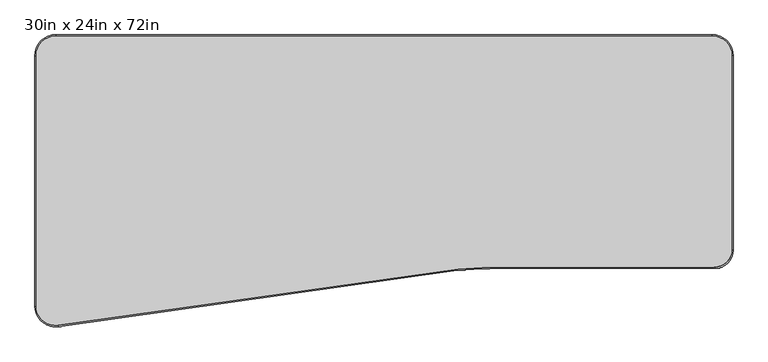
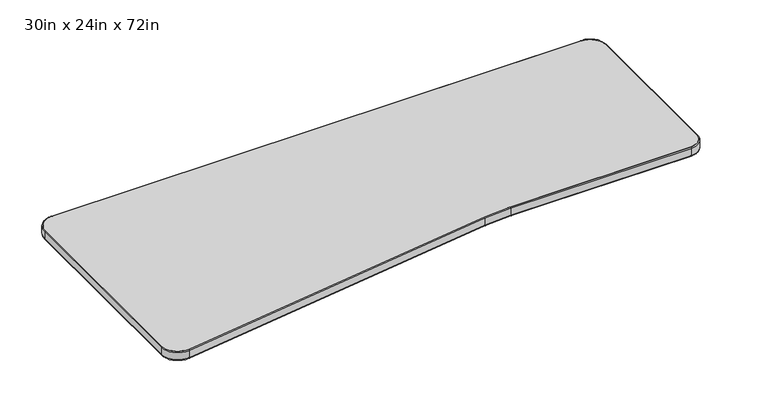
"""IFC4 building model written with IfcOpenShell, lengths in millimetres: furniture geometry, Steelcase - Answer Solution - Universal Table - Transition - Left : 30in x 24in x 72in."""

import ifcopenshell
import ifcopenshell.guid

model = None  # the IFC model being written
_history = None  # IfcOwnerHistory: only IFC2X3 demands one
_inside = {}  # id of a spatial element -> (the spatial element, [elements in it])
_under = {}  # id of a project, library or spatial element -> (it, [spatial elements below it])
_declared = {}  # id of a project -> (the project, [libraries it declares])
_typed = {}  # id of a type object -> (the type object, [elements of that type])
_made_of = {}  # id of a material, layer set ... -> (it, [elements and type objects made of it])


def new_model(schema):
    """Start an empty IFC model of exactly this schema.

    Asked for "IFC4X3", IfcOpenShell would pick the latest addendum, in which some entities
    have other attributes; the version numbers below select the first issue.
    IFC2X3 requires an IfcOwnerHistory on every rooted entity: one is made here for all.
    """
    global model, _history
    if schema == "IFC4X3":
        model = ifcopenshell.file(schema_version=(4, 3, 0, 0))
    else:
        model = ifcopenshell.file(schema=schema)
    _inside.clear()
    _under.clear()
    _declared.clear()
    _typed.clear()
    _made_of.clear()
    _history = None
    if model.schema == "IFC2X3":
        org = make("IfcOrganization", Name="unknown")
        user = make(
            "IfcPersonAndOrganization",
            ThePerson=make("IfcPerson", FamilyName="unknown"),
            TheOrganization=org,
        )
        app = make(
            "IfcApplication",
            ApplicationDeveloper=org,
            Version="unknown",
            ApplicationFullName="unknown",
            ApplicationIdentifier="unknown",
        )
        _history = make(
            "IfcOwnerHistory",
            OwningUser=user,
            OwningApplication=app,
            ChangeAction="ADDED",
            CreationDate=0,
        )
    return model


def make(cls, **values):
    """One entity of the class cls with the attributes given. An attribute that is None is left unset."""
    return model.create_entity(
        cls, **{name: value for name, value in values.items() if value is not None}
    )


def rooted(cls, **values):
    """An entity with a GlobalId (a new one), such as an element, a storey or a relation."""
    return make(cls, GlobalId=ifcopenshell.guid.new(), OwnerHistory=_history, **values)


def si_unit(unit_type, name, prefix=None):
    """IfcSIUnit, for example si_unit("LENGTHUNIT", "METRE", prefix="MILLI")."""
    return make("IfcSIUnit", UnitType=unit_type, Prefix=prefix, Name=name)


def assignment(units):
    """IfcUnitAssignment: the units of a project."""
    return None if units is None else make("IfcUnitAssignment", Units=units)


def point(xyz):
    """IfcCartesianPoint."""
    return None if xyz is None else make("IfcCartesianPoint", Coordinates=xyz)


def direction(xyz):
    """IfcDirection."""
    return None if xyz is None else make("IfcDirection", DirectionRatios=xyz)


def frame(location, z_axis=None, x_axis=None):
    """IfcAxis2Placement3D, a coordinate frame: its origin and axes. An axis left out is left unset."""
    return make(
        "IfcAxis2Placement3D",
        Location=point(location),
        Axis=direction(z_axis),
        RefDirection=direction(x_axis),
    )


def frame_2d(location, x_axis=None):
    """IfcAxis2Placement2D, a coordinate frame in the plane: its origin and x axis."""
    return make(
        "IfcAxis2Placement2D", Location=point(location), RefDirection=direction(x_axis)
    )


def origin():
    """The frame at (0, 0, 0) with its axes left unset."""
    return frame((0.0, 0.0, 0.0))


def place(relative_to, where):
    """IfcLocalPlacement: puts the frame where relative to a parent placement (None: the world)."""
    return make(
        "IfcLocalPlacement", PlacementRelTo=relative_to, RelativePlacement=where
    )


def context(
    kind, dimensions, precision=None, world=None, true_north=None, identifier=None
):
    """IfcGeometricRepresentationContext, for example the 3D "Model" context."""
    return make(
        "IfcGeometricRepresentationContext",
        ContextIdentifier=identifier,
        ContextType=kind,
        CoordinateSpaceDimension=dimensions,
        Precision=precision,
        WorldCoordinateSystem=world,
        TrueNorth=true_north,
    )


def project(units=None, contexts=None):
    """IfcProject with its units and contexts."""
    return rooted(
        "IfcProject",
        Name="project",
        RepresentationContexts=contexts,
        UnitsInContext=assignment(units),
    )


def spatial(cls, under=None, at=None, **own):
    """A site, building, storey or space (cls), placed at a placement, below another one or the project."""
    s = rooted(cls, ObjectPlacement=at, **own)
    if under is not None:
        _under.setdefault(under.id(), (under, []))[1].append(s)
    return s


def polyline(points):
    """IfcPolyline through the points."""
    return make("IfcPolyline", Points=[point(p) for p in points])


def circle_curve(where, radius):
    """IfcCircle in the frame where."""
    return make("IfcCircle", Position=where, Radius=radius)


def ellipse_curve(where, semi_axis1, semi_axis2):
    """IfcEllipse in the frame where."""
    return make(
        "IfcEllipse", Position=where, SemiAxis1=semi_axis1, SemiAxis2=semi_axis2
    )


def trimmed(basis, trim1, trim2, sense, master):
    """IfcTrimmedCurve: the piece of a basis curve between two trims."""
    return make(
        "IfcTrimmedCurve",
        BasisCurve=basis,
        Trim1=trim1,
        Trim2=trim2,
        SenseAgreement=sense,
        MasterRepresentation=master,
    )


def segment(curve, same_sense, transition):
    """IfcCompositeCurveSegment."""
    return make(
        "IfcCompositeCurveSegment",
        Transition=transition,
        SameSense=same_sense,
        ParentCurve=curve,
    )


def composite_curve(segments, self_intersect=None):
    """IfcCompositeCurve: segments joined end to end."""
    return make("IfcCompositeCurve", Segments=segments, SelfIntersect=self_intersect)


def outline(outer, holes=None, kind="AREA"):
    """IfcArbitraryClosedProfileDef: a profile drawn as a closed curve; with holes, ...WithVoids."""
    if holes is None:
        return make("IfcArbitraryClosedProfileDef", ProfileType=kind, OuterCurve=outer)
    return make(
        "IfcArbitraryProfileDefWithVoids",
        ProfileType=kind,
        OuterCurve=outer,
        InnerCurves=holes,
    )


def extrude(swept, where, along, depth):
    """IfcExtrudedAreaSolid: the profile swept, set in the frame where, extruded along a direction by depth."""
    return make(
        "IfcExtrudedAreaSolid",
        SweptArea=swept,
        Position=where,
        ExtrudedDirection=direction(along),
        Depth=depth,
    )


def shape(context_of_items, identifier, shape_type, items):
    """IfcShapeRepresentation: the items that make up one representation, for example the "Body"."""
    return make(
        "IfcShapeRepresentation",
        ContextOfItems=context_of_items,
        RepresentationIdentifier=identifier,
        RepresentationType=shape_type,
        Items=items,
    )


def source(mapping_origin, context_of_items, identifier, shape_type, items):
    """IfcRepresentationMap: a shape defined once, which mapped items show again and again."""
    return make(
        "IfcRepresentationMap",
        MappingOrigin=mapping_origin,
        MappedRepresentation=shape(context_of_items, identifier, shape_type, items),
    )


def transform(
    local_origin,
    x_axis=None,
    y_axis=None,
    z_axis=None,
    scale=None,
    scale2=None,
    scale3=None,
    uniform=True,
):
    """IfcCartesianTransformationOperator3D, or its non-uniform kind. x_axis, y_axis, z_axis: its Axis1, 2, 3."""
    if uniform:
        return make(
            "IfcCartesianTransformationOperator3D",
            Axis1=direction(x_axis),
            Axis2=direction(y_axis),
            LocalOrigin=point(local_origin),
            Scale=scale,
            Axis3=direction(z_axis),
        )
    return make(
        "IfcCartesianTransformationOperator3DnonUniform",
        Axis1=direction(x_axis),
        Axis2=direction(y_axis),
        LocalOrigin=point(local_origin),
        Scale=scale,
        Axis3=direction(z_axis),
        Scale2=scale2,
        Scale3=scale3,
    )


def mapped(mapping_source, mapping_target):
    """IfcMappedItem: shows the shape of a source again, moved by a transform."""
    return make(
        "IfcMappedItem", MappingSource=mapping_source, MappingTarget=mapping_target
    )


def made_of(thing, what):
    """Note that an element or type object is made of a material, layer set ...; save() writes the relation."""
    if what is not None:
        _made_of.setdefault(what.id(), (what, []))[1].append(thing)
    return thing


def element(
    cls,
    number,
    at=None,
    inside=None,
    cuts=None,
    type_object=None,
    material=None,
    context=None,
    identifier="Body",
    shape_type=None,
    held_by="IfcProductDefinitionShape",
    body=None,
    shapes=None,
    **own,
):
    """One element of the class cls, such as IfcWall. Its Tag is "e" and its number.

    at: its placement. inside: the storey or other place that contains it. cuts: it is an
    opening in that element (IfcRelVoidsElement). A single representation is given by context,
    identifier, shape_type and body (its items); several are given by shapes. held_by: the class
    of the entity that holds the representations. save() writes the other relations.
    """
    e = rooted(cls, Tag="e%d" % number, ObjectPlacement=at, **own)
    if body is not None:
        shapes = [shape(context, identifier, shape_type, body)]
    if shapes is not None:
        e.Representation = make(held_by, Representations=shapes)
    if inside is not None:
        _inside.setdefault(inside.id(), (inside, []))[1].append(e)
    if cuts is not None:
        rooted(
            "IfcRelVoidsElement", RelatingBuildingElement=cuts, RelatedOpeningElement=e
        )
    if type_object is not None:
        _typed.setdefault(type_object.id(), (type_object, []))[1].append(e)
    return made_of(e, material)


def aggregate(whole, parts):
    """IfcRelAggregates: a whole, such as a stair, and the parts it consists of."""
    return rooted("IfcRelAggregates", RelatingObject=whole, RelatedObjects=parts)


def save(model, path):
    """Write the relations noted so far, then the file.

    IfcRelAggregates (storeys below a building ...), IfcRelContainedInSpatialStructure (elements
    in a storey), IfcRelDefinesByType, IfcRelAssociatesMaterial and IfcRelDeclares: one each for
    every whole, place, type object, material and project.
    """
    for whole, parts in _under.values():
        aggregate(whole, parts)
    for where, things in _inside.values():
        rooted(
            "IfcRelContainedInSpatialStructure",
            RelatedElements=things,
            RelatingStructure=where,
        )
    for kind, things in _typed.values():
        rooted("IfcRelDefinesByType", RelatedObjects=things, RelatingType=kind)
    for what, things in _made_of.values():
        rooted("IfcRelAssociatesMaterial", RelatedObjects=things, RelatingMaterial=what)
    for by, libraries in _declared.values():
        rooted("IfcRelDeclares", RelatingContext=by, RelatedDefinitions=libraries)
    model.write(path)


def plane_surface(at):
    """IfcPlane: the flat surface through the origin of the frame at, square to its z axis."""
    return make("IfcPlane", Position=at)


def cylinder_surface(at, radius):
    """IfcCylindricalSurface: all points at the distance radius from the z axis of the frame at."""
    return make("IfcCylindricalSurface", Position=at, Radius=radius)


def revolved_surface(curve, axis_point, axis_direction):
    """IfcSurfaceOfRevolution: the curve turned about the line through axis_point along axis_direction."""
    return make(
        "IfcSurfaceOfRevolution",
        SweptCurve=make("IfcArbitraryOpenProfileDef", ProfileType="CURVE", Curve=curve),
        AxisPosition=make("IfcAxis1Placement", Location=point(axis_point), Axis=direction(axis_direction)),
    )


def advanced_brep(points, edges, surfaces, faces):
    """IfcAdvancedBrep: a solid bounded by faces that lie on surfaces and meet in shared edges.

    An edge is (start, end): straight between two places in points (the first is 0);
    or (start, end, curve); or (start, end, curve, False) where it runs against its curve.
    A face is (place in surfaces, loops), or (place, loops, False) where it looks against
    its surface's normal. A loop lists edges by number (the first is 1), with a minus sign
    where the edge is run from its end to its start. The first loop is the outer one.
    """
    corners = [point(p) for p in points]
    vertices = [make("IfcVertexPoint", VertexGeometry=c) for c in corners]
    made = []
    for start, end, *more in edges:
        made.append(
            make(
                "IfcEdgeCurve",
                EdgeStart=vertices[start],
                EdgeEnd=vertices[end],
                EdgeGeometry=more[0] if more else make("IfcPolyline", Points=[corners[start], corners[end]]),
                SameSense=more[1] if len(more) > 1 else True,
            )
        )
    hull = []
    for where, loops, *sense in faces:
        bounds = []
        for j, loop in enumerate(loops):
            ring = [make("IfcOrientedEdge", EdgeElement=made[abs(k) - 1], Orientation=k > 0) for k in loop]
            bounds.append(
                make(
                    "IfcFaceOuterBound" if j == 0 else "IfcFaceBound",
                    Bound=make("IfcEdgeLoop", EdgeList=ring),
                    Orientation=True,
                )
            )
        hull.append(make("IfcAdvancedFace", Bounds=bounds, FaceSurface=surfaces[where], SameSense=sense[0] if sense else True))
    return make("IfcAdvancedBrep", Outer=make("IfcClosedShell", CfsFaces=hull))


def furniture_30in_x_24in_x_72in_bc84e176(model_context):
    return source(origin(), model_context, "Body", "SolidModel", [
        extrude(outline(composite_curve([segment(polyline([(53.8479244, -3.0479999), (1768.6019516, -3.0479999)]), True, "CONTINUOUS"), segment(trimmed(circle_curve(frame_2d((1768.6019516, -53.8479999)), 50.8), [point((1768.6019516, -3.0479999))], [point((1819.4019516, -53.8479999))], False, "CARTESIAN"), True, "CONTINUOUS"), segment(polyline([(1819.4019516, -53.8479999), (1819.4019516, -558.6676965)]), True, "CONTINUOUS"), segment(trimmed(circle_curve(frame_2d((1771.5176452, -558.6676965)), 47.8843065), [point((1819.4019516, -558.6676965))], [point((1771.5176452, -606.5520029))], False, "CARTESIAN"), True, "CONTINUOUS"), segment(polyline([(1771.5176452, -606.5520029), (1187.1747338, -606.5520029)]), True, "CONTINUOUS"), segment(trimmed(circle_curve(frame_2d((1187.1747338, -1293.7704002)), 687.2183973), [point((1187.1747338, -606.5520029))], [point((1103.6043966, -611.6522841))], True, "CARTESIAN"), True, "CONTINUOUS"), segment(polyline([(1103.6043966, -611.6522841), (60.025543, -758.1787488)]), True, "CONTINUOUS"), segment(trimmed(circle_curve(frame_2d((53.8479244, -707.7557677)), 50.8), [point((60.025543, -758.1787488))], [point((3.0479244, -707.7557677))], False, "CARTESIAN"), True, "CONTINUOUS"), segment(polyline([(3.0479244, -707.7557677), (3.0479244, -53.8479999)]), True, "CONTINUOUS"), segment(trimmed(circle_curve(frame_2d((53.8479244, -53.8479999)), 50.8), [point((3.0479244, -53.8479999))], [point((53.8479244, -3.0479999))], False, "CARTESIAN"), True, "CONTINUOUS")], self_intersect=False)), frame((0.0, 0.0, 668.274), z_axis=(0.0, 0.0, 1.0), x_axis=(1.0, 0.0, 0.0)), (0.0, 0.0, 1.0), 30.0481659),
        advanced_brep(
        [(-7.55e-05, -53.8479999, 671.3219999), (53.8479244, 0.0, 671.3219999), (53.8479244, -3.0479999, 668.274), (3.0479244, -53.8479999, 668.274), (-7.55e-05, -53.8479999, 695.274166), (53.8479244, 0.0, 695.274166), (3.0479244, -53.8479999, 698.3221659), (53.8479244, -3.0479999, 698.3221659), (3.0479244, -707.7557677, 668.274), (-7.55e-05, -707.7557677, 671.3219999), (-7.55e-05, -707.7557677, 695.274166), (3.0479244, -707.7557677, 698.3221659), (60.3962001, -761.2041276, 671.3219999), (60.025543, -758.1787488, 668.274), (60.3962001, -761.2041276, 695.274166), (60.025543, -758.1787488, 698.3221659), (1101.6804802, -611.8879945, 668.274), (1102.1043834, -614.9063732, 671.3219999), (1102.1043834, -614.9063732, 695.274166), (1101.6804802, -611.8879945, 698.3221659), (1189.1130356, -609.6000028, 671.3219999), (1189.1130356, -606.5520029, 668.274), (1189.1130356, -609.6000028, 695.274166), (1189.1130356, -606.5520029, 698.3221659), (1774.9519516, -606.5520029, 668.274), (1774.9519516, -609.6000028, 671.3219999), (1774.9519516, -609.6000028, 695.274166), (1774.9519516, -606.5520029, 698.3221659), (1822.4499516, -562.1020029, 671.3219999), (1819.4019516, -562.1020029, 668.274), (1822.4499516, -562.1020029, 695.274166), (1819.4019516, -562.1020029, 698.3221659), (1819.4019516, -53.8479999, 668.274), (1822.4499516, -53.8479999, 671.3219999), (1822.4499516, -53.8479999, 695.274166), (1819.4019516, -53.8479999, 698.3221659), (1768.6019516, 0.0, 671.3219999), (1768.6019516, -3.0479999, 668.274), (1768.6019516, 0.0, 695.274166), (1768.6019516, -3.0479999, 698.3221659)],
        [
            (0, 1, circle_curve(frame((53.8479244, -53.8479999, 671.3219999), z_axis=(0.0, 0.0, -1.0), x_axis=(0.0, 1.0, 0.0)), 53.8479999)),
            (1, 2, circle_curve(frame((53.8479244, -3.0479999, 671.3219999), z_axis=(-1.0, 0.0, 0.0), x_axis=(0.0, -1.0, 0.0)), 3.0479999)),
            (2, 3, circle_curve(frame((53.8479244, -53.8479999, 668.274), z_axis=(0.0, 0.0, 1.0), x_axis=(0.0, 1.0, 0.0)), 50.8)),
            (3, 0, circle_curve(frame((3.0479244, -53.8479999, 671.3219999), z_axis=(0.0, 1.0, 0.0), x_axis=(1.0, 0.0, 0.0)), 3.0479999)),
            (4, 5, circle_curve(frame((53.8479244, -53.8479999, 695.274166), z_axis=(0.0, 0.0, -1.0), x_axis=(0.0, 1.0, 0.0)), 53.8479999)),
            (5, 1),
            (0, 4),
            (6, 7, circle_curve(frame((53.8479244, -53.8479999, 698.3221659), z_axis=(0.0, 0.0, -1.0), x_axis=(0.0, 1.0, 0.0)), 50.8)),
            (7, 5, circle_curve(frame((53.8479244, -3.0479999, 695.274166), z_axis=(-1.0, 0.0, 0.0), x_axis=(0.0, -1.0, 0.0)), 3.0479999)),
            (4, 6, circle_curve(frame((3.0479244, -53.8479999, 695.274166), z_axis=(0.0, 1.0, 0.0), x_axis=(1.0, 0.0, 0.0)), 3.0479999)),
            (2, 7),
            (6, 3),
            (3, 8),
            (8, 9, circle_curve(frame((3.0479244, -707.7557677, 671.3219999), z_axis=(0.0, 1.0, 0.0), x_axis=(1.0, 0.0, 0.0)), 3.0479999)),
            (9, 0),
            (9, 10),
            (10, 4),
            (10, 11, circle_curve(frame((3.0479244, -707.7557677, 695.274166), z_axis=(0.0, 1.0, 0.0), x_axis=(1.0, 0.0, 0.0)), 3.0479999)),
            (11, 6),
            (11, 8),
            (12, 9, circle_curve(frame((53.8479244, -707.7557677, 671.3219999), z_axis=(0.0, 0.0, -1.0), x_axis=(-1.0, 0.0, 0.0)), 53.8479999)),
            (8, 13, circle_curve(frame((53.8479244, -707.7557677, 668.274), z_axis=(0.0, 0.0, 1.0), x_axis=(-1.0, 0.0, 0.0)), 50.8)),
            (13, 12, circle_curve(frame((60.025543, -758.1787488, 671.3219999), z_axis=(-0.9925783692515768, -0.12160666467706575, 0.0), x_axis=(-0.12160666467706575, 0.9925783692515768, 0.0)), 3.0479999)),
            (14, 10, circle_curve(frame((53.8479244, -707.7557677, 695.274166), z_axis=(0.0, 0.0, -1.0), x_axis=(-1.0, 0.0, 0.0)), 53.8479999)),
            (12, 14),
            (15, 11, circle_curve(frame((53.8479244, -707.7557677, 698.3221659), z_axis=(0.0, 0.0, -1.0), x_axis=(-1.0, 0.0, 0.0)), 50.8)),
            (14, 15, circle_curve(frame((60.025543, -758.1787488, 695.274166), z_axis=(-0.9925783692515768, -0.12160666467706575, 0.0), x_axis=(-0.12160666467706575, 0.9925783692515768, 0.0)), 3.0479999)),
            (15, 13),
            (13, 16),
            (16, 17, circle_curve(frame((1101.6804802, -611.8879945, 671.3219999), z_axis=(-0.9902817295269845, -0.13907586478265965, 0.0), x_axis=(-0.13907586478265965, 0.9902817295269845, 0.0)), 3.0479999)),
            (17, 12),
            (17, 18),
            (18, 14),
            (18, 19, circle_curve(frame((1101.6804802, -611.8879945, 695.274166), z_axis=(-0.9902817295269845, -0.13907586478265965, 0.0), x_axis=(-0.13907586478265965, 0.9902817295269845, 0.0)), 3.0479999)),
            (19, 15),
            (19, 16),
            (20, 17, circle_curve(frame((1189.1130356, -1325.5303219, 671.3219999), z_axis=(0.0, 0.0, 1.0), x_axis=(-0.12160666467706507, 0.9925783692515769, 0.0)), 715.9303191)),
            (16, 21, circle_curve(frame((1189.1130356, -1325.5303219, 668.274), z_axis=(0.0, 0.0, -1.0), x_axis=(-0.12160666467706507, 0.9925783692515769, 0.0)), 718.978319)),
            (21, 20, circle_curve(frame((1189.1130356, -606.5520029, 671.3219999), z_axis=(-1.0, 0.0, 0.0), x_axis=(0.0, 1.0, 0.0)), 3.0479999)),
            (22, 18, circle_curve(frame((1189.1130356, -1325.5303219, 695.274166), z_axis=(0.0, 0.0, 1.0), x_axis=(-0.12160666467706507, 0.9925783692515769, 0.0)), 715.9303191)),
            (20, 22),
            (23, 19, circle_curve(frame((1189.1130356, -1325.5303219, 698.3221659), z_axis=(0.0, 0.0, 1.0), x_axis=(-0.12160666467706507, 0.9925783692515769, 0.0)), 718.978319)),
            (22, 23, circle_curve(frame((1189.1130356, -606.5520029, 695.274166), z_axis=(-0.9999999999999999, 0.0, 0.0), x_axis=(0.0, 0.9999999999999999, 0.0)), 3.0479999)),
            (23, 21),
            (21, 24),
            (24, 25, circle_curve(frame((1774.9519516, -606.5520029, 671.3219999), z_axis=(-1.0, 0.0, 0.0), x_axis=(0.0, 1.0, 0.0)), 3.0479999)),
            (25, 20),
            (25, 26),
            (26, 22),
            (26, 27, circle_curve(frame((1774.9519516, -606.5520029, 695.274166), z_axis=(-1.0, 0.0, 0.0), x_axis=(0.0, 1.0, 0.0)), 3.0479999)),
            (27, 23),
            (27, 24),
            (28, 25, circle_curve(frame((1774.9519516, -562.1020029, 671.3219999), z_axis=(0.0, 0.0, -1.0), x_axis=(0.0, -1.0, 0.0)), 47.4979999)),
            (24, 29, circle_curve(frame((1774.9519516, -562.1020029, 668.274), z_axis=(0.0, 0.0, 1.0), x_axis=(0.0, -1.0, 0.0)), 44.45)),
            (29, 28, circle_curve(frame((1819.4019516, -562.1020029, 671.3219999), z_axis=(0.0, -1.0, 0.0), x_axis=(-1.0, 0.0, 0.0)), 3.0479999)),
            (30, 26, circle_curve(frame((1774.9519516, -562.1020029, 695.274166), z_axis=(0.0, 0.0, -1.0), x_axis=(0.0, -1.0, 0.0)), 47.4979999)),
            (28, 30),
            (31, 27, circle_curve(frame((1774.9519516, -562.1020029, 698.3221659), z_axis=(0.0, 0.0, -1.0), x_axis=(0.0, -1.0, 0.0)), 44.45)),
            (30, 31, circle_curve(frame((1819.4019516, -562.1020029, 695.274166), z_axis=(0.0, -1.0, 0.0), x_axis=(-1.0, 0.0, 0.0)), 3.0479999)),
            (31, 29),
            (29, 32),
            (32, 33, circle_curve(frame((1819.4019516, -53.8479999, 671.3219999), z_axis=(0.0, -1.0, 0.0), x_axis=(-1.0, 0.0, 0.0)), 3.0479999)),
            (33, 28),
            (33, 34),
            (34, 30),
            (34, 35, circle_curve(frame((1819.4019516, -53.8479999, 695.274166), z_axis=(0.0, -1.0, 0.0), x_axis=(-1.0, 0.0, 0.0)), 3.0479999)),
            (35, 31),
            (35, 32),
            (36, 33, circle_curve(frame((1768.6019516, -53.8479999, 671.3219999), z_axis=(0.0, 0.0, -1.0), x_axis=(1.0, 0.0, 0.0)), 53.8479999)),
            (32, 37, circle_curve(frame((1768.6019516, -53.8479999, 668.274), z_axis=(0.0, 0.0, 1.0), x_axis=(1.0, 0.0, 0.0)), 50.8)),
            (37, 36, circle_curve(frame((1768.6019516, -3.0479999, 671.3219999), z_axis=(1.0, 0.0, 0.0), x_axis=(0.0, -1.0, 0.0)), 3.0479999)),
            (38, 34, circle_curve(frame((1768.6019516, -53.8479999, 695.274166), z_axis=(0.0, 0.0, -1.0), x_axis=(1.0, 0.0, 0.0)), 53.8479999)),
            (36, 38),
            (39, 35, circle_curve(frame((1768.6019516, -53.8479999, 698.3221659), z_axis=(0.0, 0.0, -1.0), x_axis=(1.0, 0.0, 0.0)), 50.8)),
            (38, 39, circle_curve(frame((1768.6019516, -3.0479999, 695.274166), z_axis=(1.0, 0.0, 0.0), x_axis=(0.0, -1.0, 0.0)), 3.0479999)),
            (39, 37),
            (37, 2),
            (1, 36),
            (5, 38),
            (7, 39),
        ],
        [
            revolved_surface(trimmed(ellipse_curve(frame((53.8479244, -3.0479999, 671.3219999), z_axis=(1.0, 0.0, 0.0), x_axis=(0.0, -1.0, 0.0)), 3.0479999, 3.0479999), [point((53.8479244, -3.0479999, 668.274))], [point((53.8479244, 0.0, 671.3219999))], True, "CARTESIAN"), (53.8479244, -53.8479999, 0.0), (0.0, 0.0, 1.0)),
            cylinder_surface(frame((53.8479244, -53.8479999, 0.0), z_axis=(0.0, 0.0, 1.0), x_axis=(0.0, 1.0, 0.0)), 53.8479999),
            revolved_surface(trimmed(ellipse_curve(frame((53.8479244, -3.0479999, 695.274166), z_axis=(1.0, 0.0, 0.0), x_axis=(0.0, -1.0, 0.0)), 3.0479999, 3.0479999), [point((53.8479244, 0.0, 695.274166))], [point((53.8479244, -3.0479999, 698.3221659))], True, "CARTESIAN"), (53.8479244, -53.8479999, 0.0), (0.0, 0.0, 1.0)),
            revolved_surface(polyline([(53.8479244, -3.0479999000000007, 698.3221659), (53.8479244, -3.0479999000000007, 668.274)]), (53.8479244, -53.8479999, 0.0), (0.0, 0.0, 1.0)),
            cylinder_surface(frame((3.0479244, -53.8479999, 671.3219999), z_axis=(0.0, 1.0, 0.0), x_axis=(1.0, 0.0, 0.0)), 3.0479999),
            plane_surface(frame((-7.55e-05, -53.8479999, 671.3219999), z_axis=(-1.0, 0.0, 0.0), x_axis=(0.0, -1.0, 0.0))),
            cylinder_surface(frame((3.0479244, -53.8479999, 695.274166), z_axis=(0.0, 1.0, 0.0), x_axis=(1.0, 0.0, 0.0)), 3.0479999),
            plane_surface(frame((3.0479244, -53.8479999, 698.3221659), z_axis=(1.0, 0.0, 0.0), x_axis=(0.0, -1.0, 0.0))),
            revolved_surface(trimmed(ellipse_curve(frame((3.0479244, -707.7557677, 671.3219999), z_axis=(0.0, 1.0, 0.0), x_axis=(1.0, 0.0, 0.0)), 3.0479999, 3.0479999), [point((3.0479244, -707.7557677, 668.274))], [point((-7.55e-05, -707.7557677, 671.3219999))], True, "CARTESIAN"), (53.8479244, -707.7557677, 0.0), (0.0, 0.0, 1.0)),
            cylinder_surface(frame((53.8479244, -707.7557677, 0.0), z_axis=(0.0, 0.0, 1.0), x_axis=(-1.0, 0.0, 0.0)), 53.8479999),
            revolved_surface(trimmed(ellipse_curve(frame((3.0479244, -707.7557677, 695.274166), z_axis=(0.0, 1.0, 0.0), x_axis=(1.0, 0.0, 0.0)), 3.0479999, 3.0479999), [point((-7.55e-05, -707.7557677, 695.274166))], [point((3.0479244, -707.7557677, 698.3221659))], True, "CARTESIAN"), (53.8479244, -707.7557677, 0.0), (0.0, 0.0, 1.0)),
            revolved_surface(polyline([(3.0479243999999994, -707.7557677, 698.3221659), (3.0479243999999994, -707.7557677, 668.274)]), (53.8479244, -707.7557677, 0.0), (0.0, 0.0, 1.0)),
            cylinder_surface(frame((60.025543, -758.1787488, 671.3219999), z_axis=(-0.9902817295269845, -0.13907586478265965, 0.0), x_axis=(-0.13907586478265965, 0.9902817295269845, 0.0)), 3.0479999),
            plane_surface(frame((60.3962576, -761.2045973, 671.3219999), z_axis=(0.13907586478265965, -0.9902817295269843, 0.0), x_axis=(0.9902817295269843, 0.13907586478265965, 0.0))),
            cylinder_surface(frame((60.025543, -758.1787488, 695.274166), z_axis=(-0.9902817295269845, -0.13907586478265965, 0.0), x_axis=(-0.13907586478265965, 0.9902817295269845, 0.0)), 3.0479999),
            plane_surface(frame((60.025543, -758.1787488, 698.3221659), z_axis=(-0.13907586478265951, 0.9902817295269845, 0.0), x_axis=(0.9902817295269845, 0.13907586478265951, 0.0))),
            revolved_surface(trimmed(ellipse_curve(frame((1101.6804802, -611.8879945, 671.3219999), z_axis=(-0.9925783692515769, -0.1216066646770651, 0.0), x_axis=(-0.1216066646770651, 0.9925783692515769, 0.0)), 3.0479999, 3.0479999), [point((1101.6804802, -611.8879945, 668.274))], [point((1102.0511373, -614.9133733, 671.3219999))], True, "CARTESIAN"), (1189.1130356, -1325.5303219, 0.0), (0.0, 0.0, -1.0)),
            revolved_surface(polyline([(1102.0511373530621, -614.9133732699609, 671.3219999), (1102.0511373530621, -614.9133732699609, 695.274166)]), (1189.1130356, -1325.5303219, 0.0), (0.0, 0.0, -1.0)),
            revolved_surface(trimmed(ellipse_curve(frame((1101.6804802, -611.8879945, 695.274166), z_axis=(-0.9925783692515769, -0.1216066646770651, 0.0), x_axis=(-0.1216066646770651, 0.9925783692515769, 0.0)), 3.0479999, 3.0479999), [point((1102.0511373, -614.9133733, 695.274166))], [point((1101.6804802, -611.8879945, 698.3221659))], True, "CARTESIAN"), (1189.1130356, -1325.5303219, 0.0), (0.0, 0.0, -1.0)),
            cylinder_surface(frame((1189.1130356, -1325.5303219, 0.0), z_axis=(0.0, 0.0, -1.0), x_axis=(-0.12160666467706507, 0.9925783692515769, 0.0)), 718.978319),
            cylinder_surface(frame((1189.1130356, -606.5520029, 671.3219999), z_axis=(-1.0, 0.0, 0.0), x_axis=(0.0, 1.0, 0.0)), 3.0479999),
            plane_surface(frame((1189.1130356, -609.6000028, 671.3219999), z_axis=(0.0, -1.0, 0.0), x_axis=(1.0, 0.0, 0.0))),
            cylinder_surface(frame((1189.1130356, -606.5520029, 695.274166), z_axis=(-1.0, 0.0, 0.0), x_axis=(0.0, 1.0, 0.0)), 3.0479999),
            plane_surface(frame((1189.1130356, -606.5520029, 698.3221659), z_axis=(0.0, 1.0, 0.0), x_axis=(1.0, 0.0, 0.0))),
            revolved_surface(trimmed(ellipse_curve(frame((1774.9519516, -606.5520029, 671.3219999), z_axis=(-1.0, 0.0, 0.0), x_axis=(0.0, 1.0, 0.0)), 3.0479999, 3.0479999), [point((1774.9519516, -606.5520029, 668.274))], [point((1774.9519516, -609.6000028, 671.3219999))], True, "CARTESIAN"), (1774.9519516, -562.1020029, 0.0), (0.0, 0.0, 1.0)),
            cylinder_surface(frame((1774.9519516, -562.1020029, 0.0), z_axis=(0.0, 0.0, 1.0), x_axis=(0.0, -1.0, 0.0)), 47.4979999),
            revolved_surface(trimmed(ellipse_curve(frame((1774.9519516, -606.5520029, 695.274166), z_axis=(-1.0, 0.0, 0.0), x_axis=(0.0, 1.0, 0.0)), 3.0479999, 3.0479999), [point((1774.9519516, -609.6000028, 695.274166))], [point((1774.9519516, -606.5520029, 698.3221659))], True, "CARTESIAN"), (1774.9519516, -562.1020029, 0.0), (0.0, 0.0, 1.0)),
            revolved_surface(polyline([(1774.9519516, -606.5520029, 698.3221659), (1774.9519516, -606.5520029, 668.274)]), (1774.9519516, -562.1020029, 0.0), (0.0, 0.0, 1.0)),
            cylinder_surface(frame((1819.4019516, -562.1020029, 671.3219999), z_axis=(0.0, -1.0, 0.0), x_axis=(-1.0, 0.0, 0.0)), 3.0479999),
            plane_surface(frame((1822.4499516, -562.1020029, 671.3219999), z_axis=(1.0, 0.0, 0.0), x_axis=(0.0, 1.0, 0.0))),
            cylinder_surface(frame((1819.4019516, -562.1020029, 695.274166), z_axis=(0.0, -1.0, 0.0), x_axis=(-1.0, 0.0, 0.0)), 3.0479999),
            plane_surface(frame((1819.4019516, -562.1020029, 698.3221659), z_axis=(-1.0, 0.0, 0.0), x_axis=(0.0, 1.0, 0.0))),
            revolved_surface(trimmed(ellipse_curve(frame((1819.4019516, -53.8479999, 671.3219999), z_axis=(0.0, -1.0, 0.0), x_axis=(-1.0, 0.0, 0.0)), 3.0479999, 3.0479999), [point((1819.4019516, -53.8479999, 668.274))], [point((1822.4499516, -53.8479999, 671.3219999))], True, "CARTESIAN"), (1768.6019516, -53.8479999, 0.0), (0.0, 0.0, 1.0)),
            cylinder_surface(frame((1768.6019516, -53.8479999, 0.0), z_axis=(0.0, 0.0, 1.0), x_axis=(1.0, 0.0, 0.0)), 53.8479999),
            revolved_surface(trimmed(ellipse_curve(frame((1819.4019516, -53.8479999, 695.274166), z_axis=(0.0, -1.0, 0.0), x_axis=(-1.0, 0.0, 0.0)), 3.0479999, 3.0479999), [point((1822.4499516, -53.8479999, 695.274166))], [point((1819.4019516, -53.8479999, 698.3221659))], True, "CARTESIAN"), (1768.6019516, -53.8479999, 0.0), (0.0, 0.0, 1.0)),
            revolved_surface(polyline([(1819.4019515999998, -53.8479999, 698.3221659), (1819.4019515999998, -53.8479999, 668.274)]), (1768.6019516, -53.8479999, 0.0), (0.0, 0.0, 1.0)),
            cylinder_surface(frame((1768.6019516, -3.0479999, 671.3219999), z_axis=(1.0, 0.0, 0.0), x_axis=(0.0, -1.0, 0.0)), 3.0479999),
            plane_surface(frame((1768.6019516, 0.0, 671.3219999), z_axis=(0.0, 1.0, 0.0), x_axis=(-1.0, 0.0, 0.0))),
            cylinder_surface(frame((1768.6019516, -3.0479999, 695.274166), z_axis=(1.0, 0.0, 0.0), x_axis=(0.0, -1.0, 0.0)), 3.0479999),
            plane_surface(frame((1768.6019516, -3.0479999, 698.3221659), z_axis=(0.0, -1.0, 0.0), x_axis=(-1.0, 0.0, 0.0))),
        ],
        [
            (0, [[1, 2, 3, 4]]),
            (1, [[5, 6, -1, 7]]),
            (2, [[8, 9, -5, 10]]),
            (3, [[-3, 11, -8, 12]]),
            (4, [[-4, 13, 14, 15]]),
            (5, [[-7, -15, 16, 17]]),
            (6, [[-10, -17, 18, 19]]),
            (7, [[-12, -19, 20, -13]]),
            (8, [[21, -14, 22, 23]]),
            (9, [[24, -16, -21, 25]]),
            (10, [[26, -18, -24, 27]]),
            (11, [[-22, -20, -26, 28]]),
            (12, [[-23, 29, 30, 31]]),
            (13, [[-25, -31, 32, 33]]),
            (14, [[-27, -33, 34, 35]]),
            (15, [[-28, -35, 36, -29]]),
            (16, [[37, -30, 38, 39]]),
            (17, [[40, -32, -37, 41]]),
            (18, [[42, -34, -40, 43]]),
            (19, [[-38, -36, -42, 44]]),
            (20, [[-39, 45, 46, 47]]),
            (21, [[-41, -47, 48, 49]]),
            (22, [[-43, -49, 50, 51]]),
            (23, [[-44, -51, 52, -45]]),
            (24, [[53, -46, 54, 55]]),
            (25, [[56, -48, -53, 57]]),
            (26, [[58, -50, -56, 59]]),
            (27, [[-54, -52, -58, 60]]),
            (28, [[-55, 61, 62, 63]]),
            (29, [[-57, -63, 64, 65]]),
            (30, [[-59, -65, 66, 67]]),
            (31, [[-60, -67, 68, -61]]),
            (32, [[69, -62, 70, 71]]),
            (33, [[72, -64, -69, 73]]),
            (34, [[74, -66, -72, 75]]),
            (35, [[-70, -68, -74, 76]]),
            (36, [[-71, 77, -2, 78]]),
            (37, [[-73, -78, -6, 79]]),
            (38, [[-75, -79, -9, 80]]),
            (39, [[-76, -80, -11, -77]]),
        ],
    ),
    ])


if __name__ == "__main__":
    model = new_model("IFC4")
    model_context = context("Model", 3, world=origin())
    ifc_project = project(units=[si_unit("LENGTHUNIT", "METRE", prefix="MILLI")], contexts=[model_context])
    site = spatial("IfcSite", under=ifc_project)
    building = spatial("IfcBuilding", under=site)
    placement = place(None, origin())
    furniture_30in_x_24in_x_72in_shape = furniture_30in_x_24in_x_72in_bc84e176(model_context)
    element("IfcFurniture", 1, ObjectType="Steelcase - Answer Solution - Universal Table - Transition - Left : 30in x 24in x 72in", at=placement, inside=building, context=model_context, shape_type="MappedRepresentation", body=[
        mapped(furniture_30in_x_24in_x_72in_shape, transform((0.0, 0.0, 0.0), x_axis=(1.0, 0.0, 0.0), y_axis=(0.0, 1.0, 0.0), z_axis=(0.0, 0.0, 1.0))),
    ])
    save(model, "model.ifc")
